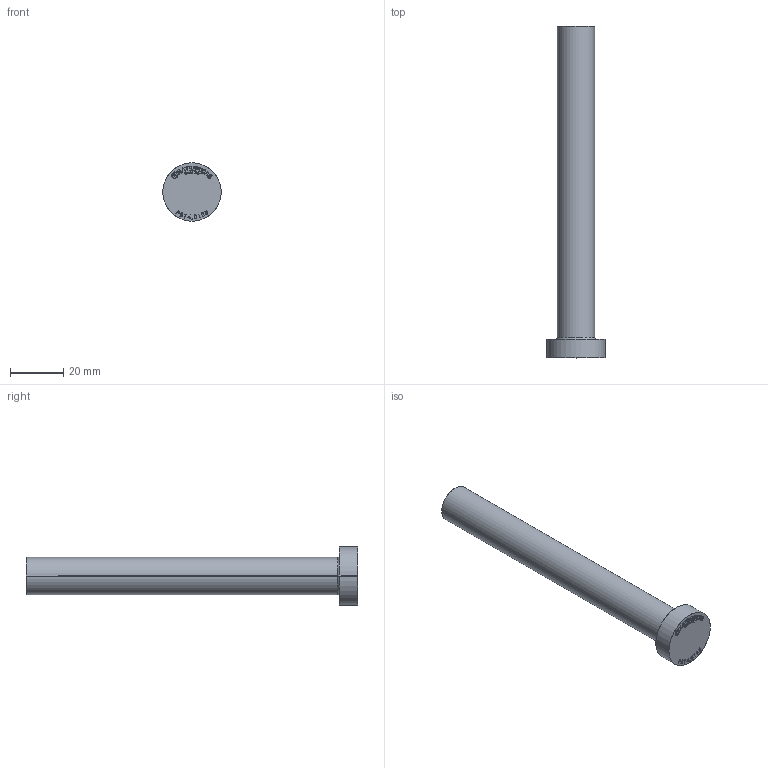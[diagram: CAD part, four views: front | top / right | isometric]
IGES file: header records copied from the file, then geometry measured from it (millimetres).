
Start section: SolidWorks IGES file using analytic representation for surfaces
Global section: file name: C:\Users\User\Downloads\Matripeça 31-08 tar\PB - PINO EXTRATOR TIPO _B_ (CATÁLOGO)\PB14,0\PB14,0125.IGS; native system: SolidWorks 2024; preprocessor: SolidWorks 2024; author: User; date: 260901.154348; units: millimetre
Bounding box: 22 x 125 x 22 mm (x, y, z)
Surface area: 6436 mm2 (no closed solid volume)
Topology: 0 solids, 0 shells, 398 faces, 3910 edges, 3910 vertices
Faces by surface type: bspline 384, revolution 14
